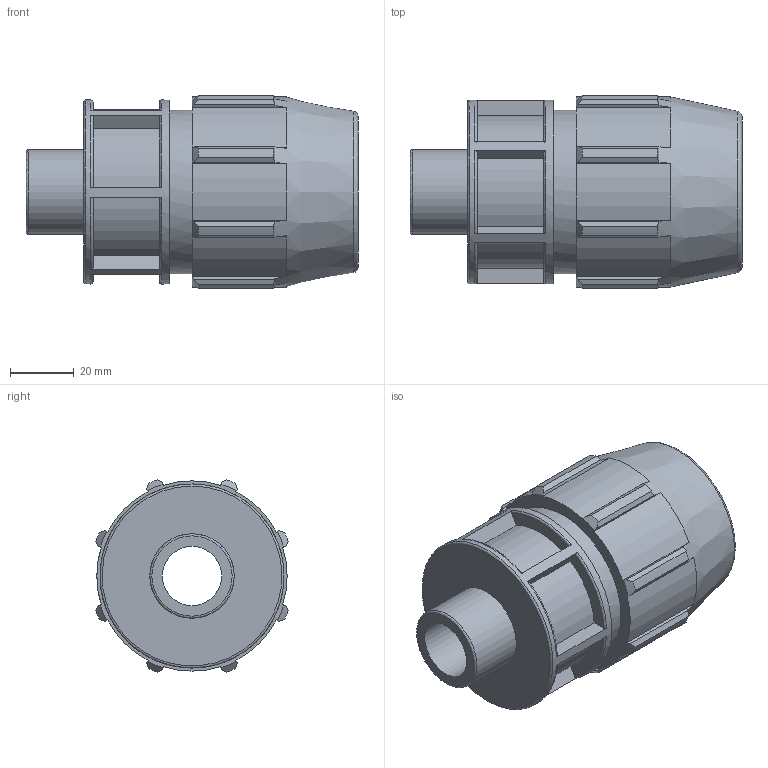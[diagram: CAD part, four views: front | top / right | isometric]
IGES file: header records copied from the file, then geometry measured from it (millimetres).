
Global section: file name: 0702M0010007.ipt; native system: Autodesk Inventor 2019; preprocessor: unknown; author: KIM; date: 20210826.124434; units: inch
Bounding box: 103.89 x 60.23 x 60.23 mm (x, y, z)
Volume: 136779.4 mm3; surface area: 35114.9 mm2
Topology: 1 solids, 1 shells, 124 faces, 343 edges, 231 vertices
Faces by surface type: plane 63, cylinder 25, revolution 19, cone 17
Full cylindrical faces by diameter (mm): 26.441 x1, 51.206 x1, 57.607 x1
